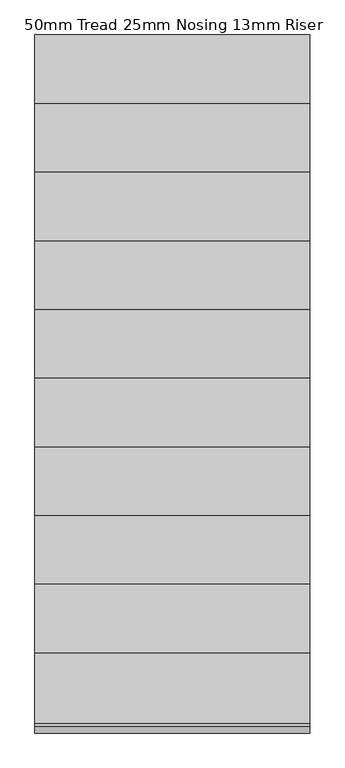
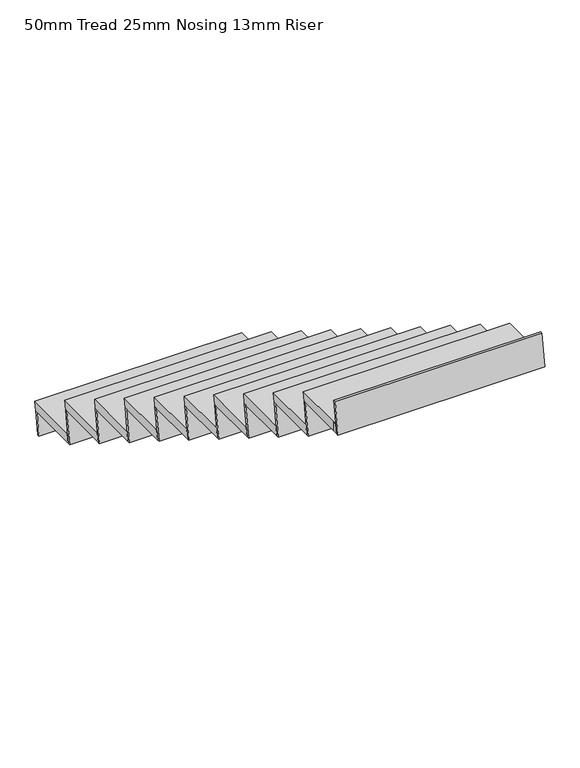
"""IFC4 building model written with IfcOpenShell, lengths in millimetres: stair flight geometry, 50mm Tread 25mm Nosing 13mm Riser."""

from ifc_helpers import new_model, si_unit, origin, place, context, project, spatial, faceted_brep, source, transform, mapped, element, save


def stair_flight_50mm_tread_25mm_nosing_13mm_riser_b1afc72b(model_context):
    return source(origin(), model_context, "Body", "Brep", [
        faceted_brep([(54249.1173382, -19840.7006057, 172.7272727), (54249.1173382, -19847.9374478, 122.7272727), (55349.1173382, -19847.9374478, 122.7272727), (55349.1173382, -19840.7006057, 172.7272727), (55349.1173382, -19540.7006057, 172.7272727), (54249.1173382, -19540.7006057, 172.7272727), (54249.1173382, -19547.9374478, 122.7272727), (55349.1173382, -19547.9374478, 122.7272727)], [[[0, 1, 2, 3]], [[3, 4, 5, 0]], [[2, 1, 6, 7]], [[4, 3, 2, 7]], [[0, 5, 6, 1]], [[5, 4, 7, 6]]]),
        faceted_brep([(54249.1173382, -19547.9374478, 122.7272727), (54249.1173382, -19565.7006057, 0.0), (54249.1173382, -19578.3308568, 0.0), (54249.1173382, -19560.5676989, 122.7272727), (55349.1173382, -19547.9374478, 122.7272727), (55349.1173382, -19560.5676989, 122.7272727), (55349.1173382, -19578.3308568, 0.0), (55349.1173382, -19565.7006057, 0.0)], [[[0, 1, 2, 3]], [[4, 5, 6, 7]], [[1, 0, 4, 7]], [[2, 1, 7, 6]], [[3, 2, 6, 5]], [[0, 3, 5, 4]]]),
        faceted_brep([(54249.1173382, -19822.9374478, 295.4545455), (54249.1173382, -19847.9374478, 122.7272727), (54249.1173382, -19860.5676989, 122.7272727), (54249.1173382, -19835.5676989, 295.4545455), (55349.1173382, -19822.9374478, 295.4545455), (55349.1173382, -19835.5676989, 295.4545455), (55349.1173382, -19860.5676989, 122.7272727), (55349.1173382, -19847.9374478, 122.7272727)], [[[0, 1, 2, 3]], [[4, 5, 6, 7]], [[1, 0, 4, 7]], [[2, 1, 7, 6]], [[3, 2, 6, 5]], [[0, 3, 5, 4]]]),
        faceted_brep([(55349.1173382, -20115.7006057, 345.4545455), (55349.1173382, -19815.7006057, 345.4545455), (54249.1173382, -19815.7006057, 345.4545455), (54249.1173382, -20115.7006057, 345.4545455), (55349.1173382, -20122.9374478, 295.4545455), (54249.1173382, -20122.9374478, 295.4545455), (54249.1173382, -19822.9374478, 295.4545455), (55349.1173382, -19822.9374478, 295.4545455)], [[[0, 1, 2, 3]], [[4, 5, 6, 7]], [[1, 0, 4, 7]], [[3, 2, 6, 5]], [[3, 5, 4, 0]], [[2, 1, 7, 6]]]),
        faceted_brep([(54249.1173382, -20097.9374478, 468.1818182), (54249.1173382, -20122.9374478, 295.4545455), (54249.1173382, -20135.5676989, 295.4545455), (54249.1173382, -20110.5676989, 468.1818182), (55349.1173382, -20097.9374478, 468.1818182), (55349.1173382, -20110.5676989, 468.1818182), (55349.1173382, -20135.5676989, 295.4545455), (55349.1173382, -20122.9374478, 295.4545455)], [[[0, 1, 2, 3]], [[4, 5, 6, 7]], [[1, 0, 4, 7]], [[2, 1, 7, 6]], [[3, 2, 6, 5]], [[0, 3, 5, 4]]]),
        faceted_brep([(55349.1173382, -20390.7006057, 518.1818182), (55349.1173382, -20090.7006057, 518.1818182), (54249.1173382, -20090.7006057, 518.1818182), (54249.1173382, -20390.7006057, 518.1818182), (55349.1173382, -20397.9374478, 468.1818182), (54249.1173382, -20397.9374478, 468.1818182), (54249.1173382, -20097.9374478, 468.1818182), (55349.1173382, -20097.9374478, 468.1818182)], [[[0, 1, 2, 3]], [[4, 5, 6, 7]], [[1, 0, 4, 7]], [[3, 2, 6, 5]], [[3, 5, 4, 0]], [[2, 1, 7, 6]]]),
        faceted_brep([(54249.1173382, -20372.9374478, 640.9090909), (54249.1173382, -20397.9374478, 468.1818182), (54249.1173382, -20410.5676989, 468.1818182), (54249.1173382, -20385.5676989, 640.9090909), (55349.1173382, -20372.9374478, 640.9090909), (55349.1173382, -20385.5676989, 640.9090909), (55349.1173382, -20410.5676989, 468.1818182), (55349.1173382, -20397.9374478, 468.1818182)], [[[0, 1, 2, 3]], [[4, 5, 6, 7]], [[1, 0, 4, 7]], [[2, 1, 7, 6]], [[3, 2, 6, 5]], [[0, 3, 5, 4]]]),
        faceted_brep([(55349.1173382, -20665.7006057, 690.9090909), (55349.1173382, -20365.7006057, 690.9090909), (54249.1173382, -20365.7006057, 690.9090909), (54249.1173382, -20665.7006057, 690.9090909), (55349.1173382, -20672.9374478, 640.9090909), (54249.1173382, -20672.9374478, 640.9090909), (54249.1173382, -20372.9374478, 640.9090909), (55349.1173382, -20372.9374478, 640.9090909)], [[[0, 1, 2, 3]], [[4, 5, 6, 7]], [[1, 0, 4, 7]], [[3, 2, 6, 5]], [[3, 5, 4, 0]], [[2, 1, 7, 6]]]),
        faceted_brep([(54249.1173382, -20647.9374478, 813.6363636), (54249.1173382, -20672.9374478, 640.9090909), (54249.1173382, -20685.5676989, 640.9090909), (54249.1173382, -20660.5676989, 813.6363636), (55349.1173382, -20647.9374478, 813.6363636), (55349.1173382, -20660.5676989, 813.6363636), (55349.1173382, -20685.5676989, 640.9090909), (55349.1173382, -20672.9374478, 640.9090909)], [[[0, 1, 2, 3]], [[4, 5, 6, 7]], [[1, 0, 4, 7]], [[2, 1, 7, 6]], [[3, 2, 6, 5]], [[0, 3, 5, 4]]]),
        faceted_brep([(55349.1173382, -20940.7006057, 863.6363636), (55349.1173382, -20640.7006057, 863.6363636), (54249.1173382, -20640.7006057, 863.6363636), (54249.1173382, -20940.7006057, 863.6363636), (55349.1173382, -20947.9374478, 813.6363636), (54249.1173382, -20947.9374478, 813.6363636), (54249.1173382, -20647.9374478, 813.6363636), (55349.1173382, -20647.9374478, 813.6363636)], [[[0, 1, 2, 3]], [[4, 5, 6, 7]], [[1, 0, 4, 7]], [[3, 2, 6, 5]], [[3, 5, 4, 0]], [[2, 1, 7, 6]]]),
        faceted_brep([(54249.1173382, -20922.9374478, 986.3636364), (54249.1173382, -20947.9374478, 813.6363636), (54249.1173382, -20960.5676989, 813.6363636), (54249.1173382, -20935.5676989, 986.3636364), (55349.1173382, -20922.9374478, 986.3636364), (55349.1173382, -20935.5676989, 986.3636364), (55349.1173382, -20960.5676989, 813.6363636), (55349.1173382, -20947.9374478, 813.6363636)], [[[0, 1, 2, 3]], [[4, 5, 6, 7]], [[1, 0, 4, 7]], [[2, 1, 7, 6]], [[3, 2, 6, 5]], [[0, 3, 5, 4]]]),
        faceted_brep([(55349.1173382, -21215.7006057, 1036.3636364), (55349.1173382, -20915.7006057, 1036.3636364), (54249.1173382, -20915.7006057, 1036.3636364), (54249.1173382, -21215.7006057, 1036.3636364), (55349.1173382, -21222.9374478, 986.3636364), (54249.1173382, -21222.9374478, 986.3636364), (54249.1173382, -20922.9374478, 986.3636364), (55349.1173382, -20922.9374478, 986.3636364)], [[[0, 1, 2, 3]], [[4, 5, 6, 7]], [[1, 0, 4, 7]], [[3, 2, 6, 5]], [[3, 5, 4, 0]], [[2, 1, 7, 6]]]),
        faceted_brep([(54249.1173382, -21197.9374478, 1159.0909091), (54249.1173382, -21222.9374478, 986.3636364), (54249.1173382, -21235.5676989, 986.3636364), (54249.1173382, -21210.5676989, 1159.0909091), (55349.1173382, -21197.9374478, 1159.0909091), (55349.1173382, -21210.5676989, 1159.0909091), (55349.1173382, -21235.5676989, 986.3636364), (55349.1173382, -21222.9374478, 986.3636364)], [[[0, 1, 2, 3]], [[4, 5, 6, 7]], [[1, 0, 4, 7]], [[2, 1, 7, 6]], [[3, 2, 6, 5]], [[0, 3, 5, 4]]]),
        faceted_brep([(55349.1173382, -21490.7006057, 1209.0909091), (55349.1173382, -21190.7006057, 1209.0909091), (54249.1173382, -21190.7006057, 1209.0909091), (54249.1173382, -21490.7006057, 1209.0909091), (55349.1173382, -21497.9374478, 1159.0909091), (54249.1173382, -21497.9374478, 1159.0909091), (54249.1173382, -21197.9374478, 1159.0909091), (55349.1173382, -21197.9374478, 1159.0909091)], [[[0, 1, 2, 3]], [[4, 5, 6, 7]], [[1, 0, 4, 7]], [[3, 2, 6, 5]], [[3, 5, 4, 0]], [[2, 1, 7, 6]]]),
        faceted_brep([(54249.1173382, -21472.9374478, 1331.8181818), (54249.1173382, -21497.9374478, 1159.0909091), (54249.1173382, -21510.5676989, 1159.0909091), (54249.1173382, -21485.5676989, 1331.8181818), (55349.1173382, -21472.9374478, 1331.8181818), (55349.1173382, -21485.5676989, 1331.8181818), (55349.1173382, -21510.5676989, 1159.0909091), (55349.1173382, -21497.9374478, 1159.0909091)], [[[0, 1, 2, 3]], [[4, 5, 6, 7]], [[1, 0, 4, 7]], [[2, 1, 7, 6]], [[3, 2, 6, 5]], [[0, 3, 5, 4]]]),
        faceted_brep([(55349.1173382, -21765.7006057, 1381.8181818), (55349.1173382, -21465.7006057, 1381.8181818), (54249.1173382, -21465.7006057, 1381.8181818), (54249.1173382, -21765.7006057, 1381.8181818), (55349.1173382, -21772.9374478, 1331.8181818), (54249.1173382, -21772.9374478, 1331.8181818), (54249.1173382, -21472.9374478, 1331.8181818), (55349.1173382, -21472.9374478, 1331.8181818)], [[[0, 1, 2, 3]], [[4, 5, 6, 7]], [[1, 0, 4, 7]], [[3, 2, 6, 5]], [[3, 5, 4, 0]], [[2, 1, 7, 6]]]),
        faceted_brep([(54249.1173382, -21747.9374478, 1504.5454545), (54249.1173382, -21772.9374478, 1331.8181818), (54249.1173382, -21785.5676989, 1331.8181818), (54249.1173382, -21760.5676989, 1504.5454545), (55349.1173382, -21747.9374478, 1504.5454545), (55349.1173382, -21760.5676989, 1504.5454545), (55349.1173382, -21785.5676989, 1331.8181818), (55349.1173382, -21772.9374478, 1331.8181818)], [[[0, 1, 2, 3]], [[4, 5, 6, 7]], [[1, 0, 4, 7]], [[2, 1, 7, 6]], [[3, 2, 6, 5]], [[0, 3, 5, 4]]]),
        faceted_brep([(55349.1173382, -22040.7006057, 1554.5454545), (55349.1173382, -21740.7006057, 1554.5454545), (54249.1173382, -21740.7006057, 1554.5454545), (54249.1173382, -22040.7006057, 1554.5454545), (55349.1173382, -22047.9374478, 1504.5454545), (54249.1173382, -22047.9374478, 1504.5454545), (54249.1173382, -21747.9374478, 1504.5454545), (55349.1173382, -21747.9374478, 1504.5454545)], [[[0, 1, 2, 3]], [[4, 5, 6, 7]], [[1, 0, 4, 7]], [[3, 2, 6, 5]], [[3, 5, 4, 0]], [[2, 1, 7, 6]]]),
        faceted_brep([(54249.1173382, -22297.9374478, 1850.0), (54249.1173382, -22322.9374478, 1677.2727273), (54249.1173382, -22335.5676989, 1677.2727273), (54249.1173382, -22310.5676989, 1850.0), (55349.1173382, -22297.9374478, 1850.0), (55349.1173382, -22310.5676989, 1850.0), (55349.1173382, -22335.5676989, 1677.2727273), (55349.1173382, -22322.9374478, 1677.2727273)], [[[0, 1, 2, 3]], [[4, 5, 6, 7]], [[1, 0, 4, 7]], [[2, 1, 7, 6]], [[3, 2, 6, 5]], [[0, 3, 5, 4]]]),
        faceted_brep([(54249.1173382, -22022.9374478, 1677.2727273), (54249.1173382, -22047.9374478, 1504.5454545), (54249.1173382, -22060.5676989, 1504.5454545), (54249.1173382, -22035.5676989, 1677.2727273), (55349.1173382, -22022.9374478, 1677.2727273), (55349.1173382, -22035.5676989, 1677.2727273), (55349.1173382, -22060.5676989, 1504.5454545), (55349.1173382, -22047.9374478, 1504.5454545)], [[[0, 1, 2, 3]], [[4, 5, 6, 7]], [[1, 0, 4, 7]], [[2, 1, 7, 6]], [[3, 2, 6, 5]], [[0, 3, 5, 4]]]),
        faceted_brep([(55349.1173382, -22315.7006057, 1727.2727273), (55349.1173382, -22015.7006057, 1727.2727273), (54249.1173382, -22015.7006057, 1727.2727273), (54249.1173382, -22290.7006057, 1727.2727273), (54249.1173382, -22315.7006057, 1727.2727273), (55349.1173382, -22322.9374478, 1677.2727273), (54249.1173382, -22322.9374478, 1677.2727273), (54249.1173382, -22290.7006057, 1677.2727273), (54249.1173382, -22022.9374478, 1677.2727273), (55349.1173382, -22022.9374478, 1677.2727273)], [[[0, 1, 2, 3, 4]], [[5, 6, 7, 8, 9]], [[1, 0, 5, 9]], [[3, 2, 8, 7]], [[4, 3, 7, 6]], [[4, 6, 5, 0]], [[2, 1, 9, 8]]]),
    ])


if __name__ == "__main__":
    model = new_model("IFC4")
    model_context = context("Model", 3, world=origin())
    ifc_project = project(units=[si_unit("LENGTHUNIT", "METRE", prefix="MILLI")], contexts=[model_context])
    site = spatial("IfcSite", under=ifc_project)
    building = spatial("IfcBuilding", under=site)
    placement = place(None, origin())
    stair_flight_50mm_tread_25mm_nosing_13mm_riser_shape = stair_flight_50mm_tread_25mm_nosing_13mm_riser_b1afc72b(model_context)
    element("IfcStairFlight", 1, ObjectType="50mm Tread 25mm Nosing 13mm Riser", at=placement, inside=building, context=model_context, shape_type="MappedRepresentation", body=[
        mapped(stair_flight_50mm_tread_25mm_nosing_13mm_riser_shape, transform((0.0, 0.0, 0.0), x_axis=(1.0, 0.0, 0.0), y_axis=(0.0, 1.0, 0.0), z_axis=(0.0, 0.0, 1.0))),
    ])
    save(model, "model.ifc")
